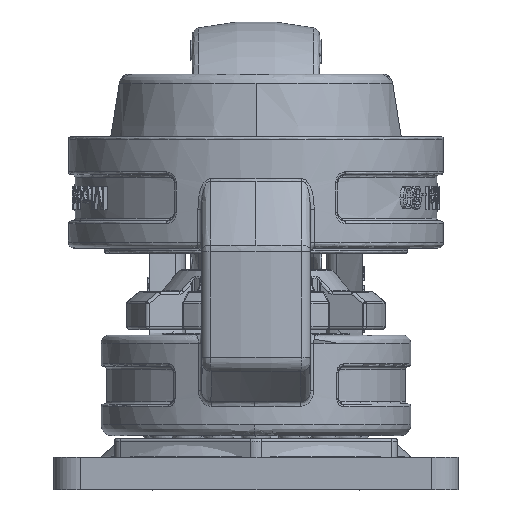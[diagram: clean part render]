
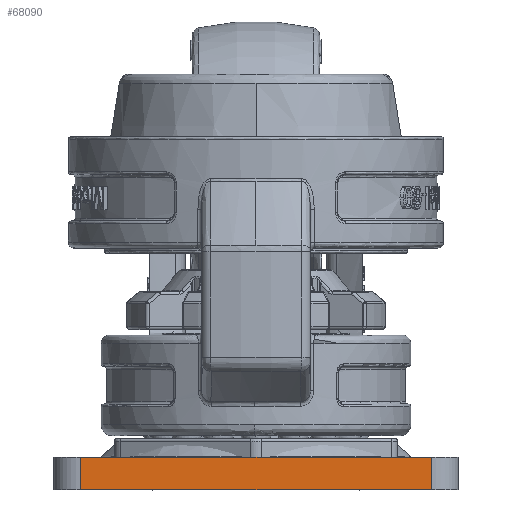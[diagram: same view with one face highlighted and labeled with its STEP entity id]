
A CAD part, left-side view. The second image highlights one B-rep face of the part: STEP entity #68090.
In plain terms, the highlighted planar face has unit normal (-1, 0, 0).
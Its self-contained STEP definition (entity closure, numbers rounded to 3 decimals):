
#299 = EDGE_LOOP ( 'NONE', ( #23773, #103418, #191925, #162806 ) ) ;
#5274 = CARTESIAN_POINT ( 'NONE',  ( -37.25, 38.74, -4.25 ) ) ;
#14579 = CARTESIAN_POINT ( 'NONE',  ( -37.25, 32.25, -10.25 ) ) ;
#18772 = VECTOR ( 'NONE', #164614, 1000. ) ;
#23773 = ORIENTED_EDGE ( 'NONE', *, *, #77851, .F. ) ;
#26932 = EDGE_CURVE ( 'NONE', #79552, #188705, #32558, .T. ) ;
#27834 = DIRECTION ( 'NONE',  ( 0., -1., 0. ) ) ;
#29274 = DIRECTION ( 'NONE',  ( 0., 1., 0. ) ) ;
#32558 = LINE ( 'NONE', #159544, #18772 ) ;
#33327 = PLANE ( 'NONE',  #125497 ) ;
#33484 = DIRECTION ( 'NONE',  ( 0., 0., -1. ) ) ;
#37003 = LINE ( 'NONE', #5274, #128252 ) ;
#48739 = LINE ( 'NONE', #214824, #104634 ) ;
#56746 = CARTESIAN_POINT ( 'NONE',  ( -37.25, -32.25, -4.25 ) ) ;
#68090 = ADVANCED_FACE ( 'NONE', ( #196025 ), #33327, .F. ) ;
#75218 = EDGE_CURVE ( 'NONE', #188705, #111616, #37003, .T. ) ;
#77851 = EDGE_CURVE ( 'NONE', #111616, #80563, #48739, .T. ) ;
#79552 = VERTEX_POINT ( 'NONE', #14579 ) ;
#80563 = VERTEX_POINT ( 'NONE', #144083 ) ;
#99655 = CARTESIAN_POINT ( 'NONE',  ( -37.25, 32.25, -4.25 ) ) ;
#99909 = CARTESIAN_POINT ( 'NONE',  ( -37.25, -33.54, -10.442 ) ) ;
#103418 = ORIENTED_EDGE ( 'NONE', *, *, #75218, .F. ) ;
#104634 = VECTOR ( 'NONE', #33484, 1000. ) ;
#111616 = VERTEX_POINT ( 'NONE', #56746 ) ;
#125497 = AXIS2_PLACEMENT_3D ( 'NONE', #99909, #166473, #194964 ) ;
#128252 = VECTOR ( 'NONE', #27834, 1000. ) ;
#144083 = CARTESIAN_POINT ( 'NONE',  ( -37.25, -32.25, -10.25 ) ) ;
#159544 = CARTESIAN_POINT ( 'NONE',  ( -37.25, 32.25, -10.442 ) ) ;
#162806 = ORIENTED_EDGE ( 'NONE', *, *, #199618, .F. ) ;
#164614 = DIRECTION ( 'NONE',  ( 0., 0., 1. ) ) ;
#166473 = DIRECTION ( 'NONE',  ( 1., 0., 0. ) ) ;
#178840 = CARTESIAN_POINT ( 'NONE',  ( -37.25, -33.54, -10.25 ) ) ;
#188705 = VERTEX_POINT ( 'NONE', #99655 ) ;
#191925 = ORIENTED_EDGE ( 'NONE', *, *, #26932, .F. ) ;
#194964 = DIRECTION ( 'NONE',  ( 0., 0., -1. ) ) ;
#195230 = LINE ( 'NONE', #178840, #214032 ) ;
#196025 = FACE_OUTER_BOUND ( 'NONE', #299, .T. ) ;
#199618 = EDGE_CURVE ( 'NONE', #80563, #79552, #195230, .T. ) ;
#214032 = VECTOR ( 'NONE', #29274, 1000. ) ;
#214824 = CARTESIAN_POINT ( 'NONE',  ( -37.25, -32.25, -10.25 ) ) ;
